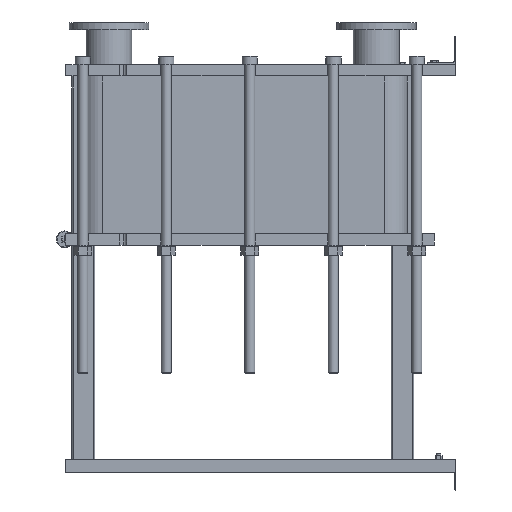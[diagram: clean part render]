
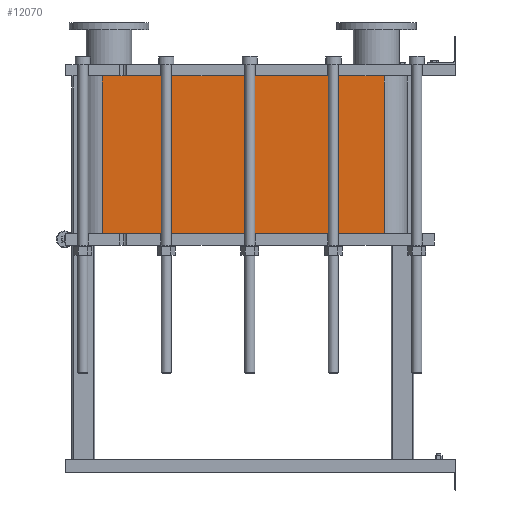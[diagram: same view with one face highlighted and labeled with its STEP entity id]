
A CAD part, left-side view. The second image highlights one B-rep face of the part: STEP entity #12070.
In plain terms, the highlighted planar face has unit normal (-1, 0, 0).
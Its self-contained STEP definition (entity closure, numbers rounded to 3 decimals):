
#1064=LINE('',#21140,#2164);
#1065=LINE('',#21144,#2165);
#1066=LINE('',#21146,#2166);
#1067=LINE('',#21147,#2167);
#2164=VECTOR('',#15790,10.);
#2165=VECTOR('',#15795,10.);
#2166=VECTOR('',#15796,10.);
#2167=VECTOR('',#15797,10.);
#3304=FACE_OUTER_BOUND('',#4091,.T.);
#4091=EDGE_LOOP('',(#9793,#9794,#9795,#9796));
#5677=VERTEX_POINT('',#21137);
#5678=VERTEX_POINT('',#21139);
#5679=VERTEX_POINT('',#21143);
#5680=VERTEX_POINT('',#21145);
#7118=EDGE_CURVE('',#5678,#5677,#1064,.T.);
#7120=EDGE_CURVE('',#5677,#5679,#1065,.T.);
#7121=EDGE_CURVE('',#5680,#5679,#1066,.T.);
#7122=EDGE_CURVE('',#5680,#5678,#1067,.T.);
#9793=ORIENTED_EDGE('',*,*,#7120,.T.);
#9794=ORIENTED_EDGE('',*,*,#7121,.F.);
#9795=ORIENTED_EDGE('',*,*,#7122,.T.);
#9796=ORIENTED_EDGE('',*,*,#7118,.T.);
#11441=PLANE('',#13191);
#12070=ADVANCED_FACE('',(#3304),#11441,.T.);
#13191=AXIS2_PLACEMENT_3D('',#21142,#15793,#15794);
#15790=DIRECTION('',(0.,0.,-1.));
#15793=DIRECTION('center_axis',(-1.,0.,0.));
#15794=DIRECTION('ref_axis',(0.,1.,0.));
#15795=DIRECTION('',(0.,-1.,0.));
#15796=DIRECTION('',(0.,0.,-1.));
#15797=DIRECTION('',(0.,1.,0.));
#21137=CARTESIAN_POINT('',(-248.152,1243.818,-555.45));
#21139=CARTESIAN_POINT('',(-248.152,1243.818,0.));
#21140=CARTESIAN_POINT('',(-248.152,1243.818,0.));
#21142=CARTESIAN_POINT('Origin',(-248.152,251.818,0.));
#21143=CARTESIAN_POINT('',(-248.152,251.818,-555.45));
#21144=CARTESIAN_POINT('',(-248.152,499.818,-555.45));
#21145=CARTESIAN_POINT('',(-248.152,251.818,0.));
#21146=CARTESIAN_POINT('',(-248.152,251.818,0.));
#21147=CARTESIAN_POINT('',(-248.152,251.818,0.));
